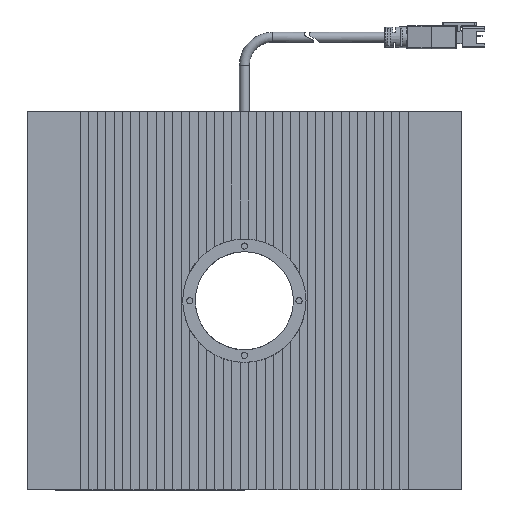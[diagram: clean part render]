
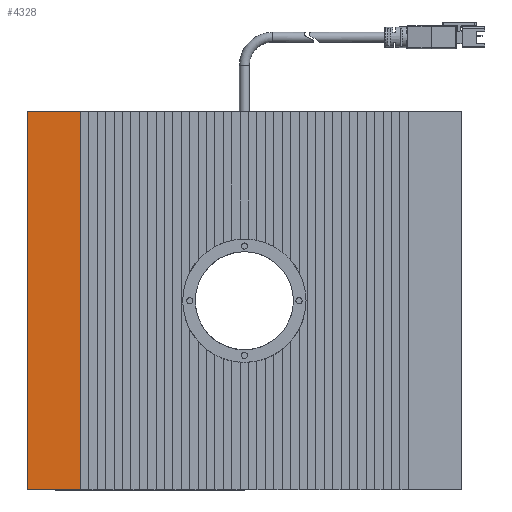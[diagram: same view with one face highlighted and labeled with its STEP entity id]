
A CAD part, top view. The second image highlights one B-rep face of the part: STEP entity #4328.
In plain terms, the highlighted planar face has unit normal (0, 0, 1).
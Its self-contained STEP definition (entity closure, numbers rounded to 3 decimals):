
#108 = AXIS2_PLACEMENT_3D ( 'NONE', #3080, #12455, #5157 ) ;
#573 = CARTESIAN_POINT ( 'NONE',  ( -77.5, 67.5, 4. ) ) ;
#699 = LINE ( 'NONE', #8436, #1021 ) ;
#1021 = VECTOR ( 'NONE', #11803, 1000. ) ;
#1632 = LINE ( 'NONE', #573, #13094 ) ;
#1974 = ORIENTED_EDGE ( 'NONE', *, *, #10230, .F. ) ;
#2189 = EDGE_CURVE ( 'NONE', #9764, #6041, #2312, .T. ) ;
#2312 = LINE ( 'NONE', #5795, #10306 ) ;
#2952 = EDGE_CURVE ( 'NONE', #6041, #12598, #1632, .T. ) ;
#3080 = CARTESIAN_POINT ( 'NONE',  ( 0., 0., 4. ) ) ;
#3785 = DIRECTION ( 'NONE',  ( -1., 0., 0. ) ) ;
#4328 = ADVANCED_FACE ( 'NONE', ( #8175 ), #6122, .F. ) ;
#5157 = DIRECTION ( 'NONE',  ( -1., 0., 0. ) ) ;
#5531 = ORIENTED_EDGE ( 'NONE', *, *, #2189, .T. ) ;
#5630 = ORIENTED_EDGE ( 'NONE', *, *, #8181, .T. ) ;
#5795 = CARTESIAN_POINT ( 'NONE',  ( 77.5, 67.5, 4. ) ) ;
#6041 = VERTEX_POINT ( 'NONE', #7445 ) ;
#6122 = PLANE ( 'NONE',  #108 ) ;
#6481 = VECTOR ( 'NONE', #9915, 1000. ) ;
#7220 = VERTEX_POINT ( 'NONE', #8581 ) ;
#7445 = CARTESIAN_POINT ( 'NONE',  ( -77.5, 67.5, 4. ) ) ;
#7813 = CARTESIAN_POINT ( 'NONE',  ( -58.5, 67.5, 4. ) ) ;
#7971 = DIRECTION ( 'NONE',  ( 0., -1., 0. ) ) ;
#8175 = FACE_OUTER_BOUND ( 'NONE', #11744, .T. ) ;
#8181 = EDGE_CURVE ( 'NONE', #12598, #7220, #699, .T. ) ;
#8436 = CARTESIAN_POINT ( 'NONE',  ( 77.5, -67.5, 4. ) ) ;
#8581 = CARTESIAN_POINT ( 'NONE',  ( -58.5, -67.5, 4. ) ) ;
#8858 = CARTESIAN_POINT ( 'NONE',  ( -58.5, 67.5, 4. ) ) ;
#9764 = VERTEX_POINT ( 'NONE', #7813 ) ;
#9915 = DIRECTION ( 'NONE',  ( 0., -1., 0. ) ) ;
#10230 = EDGE_CURVE ( 'NONE', #9764, #7220, #13196, .T. ) ;
#10306 = VECTOR ( 'NONE', #3785, 1000. ) ;
#10526 = CARTESIAN_POINT ( 'NONE',  ( -77.5, -67.5, 4. ) ) ;
#11744 = EDGE_LOOP ( 'NONE', ( #5630, #1974, #5531, #13390 ) ) ;
#11803 = DIRECTION ( 'NONE',  ( 1., 0., 0. ) ) ;
#12455 = DIRECTION ( 'NONE',  ( 0., 0., -1. ) ) ;
#12598 = VERTEX_POINT ( 'NONE', #10526 ) ;
#13094 = VECTOR ( 'NONE', #7971, 1000. ) ;
#13196 = LINE ( 'NONE', #8858, #6481 ) ;
#13390 = ORIENTED_EDGE ( 'NONE', *, *, #2952, .T. ) ;
